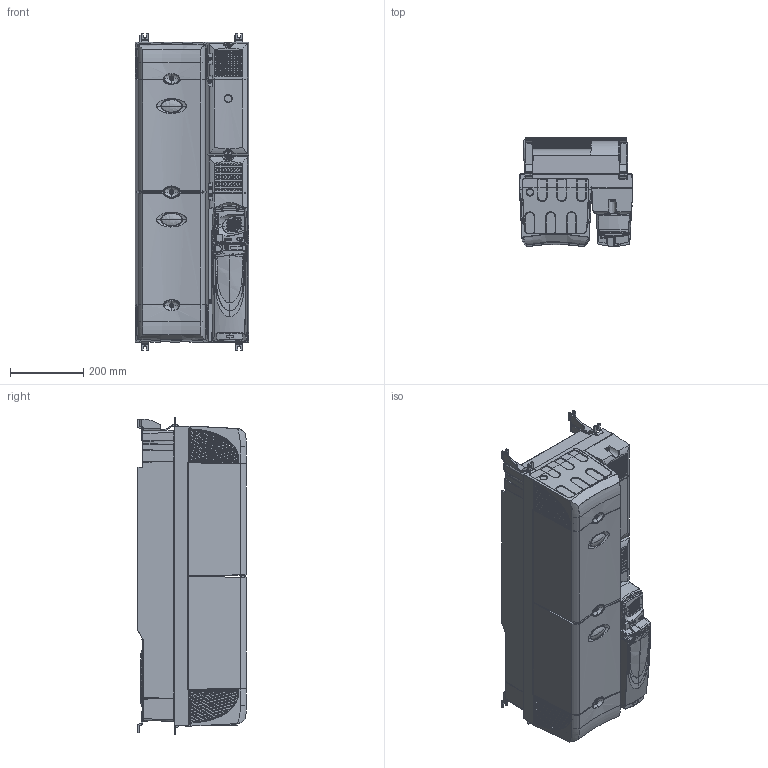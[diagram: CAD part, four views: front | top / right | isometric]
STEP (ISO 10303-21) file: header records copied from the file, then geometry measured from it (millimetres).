
FILE_DESCRIPTION((''),'2;1');
FILE_NAME('EXTERNAL_WITH_TERM_CV_SW0001','2007-03-22T',('summne01'),(''),'PRO/ENGINEER BY PARAMETRIC TECHNOLOGY CORPORATION, 2006460','PRO/ENGINEER BY PARAMETRIC TECHNOLOGY CORPORATION, 2006460','');
FILE_SCHEMA(('CONFIG_CONTROL_DESIGN'));
Products named in the file (1): EXTERNAL_WITH_TERM_CV_SW0001
Bounding box: 310.16 x 298 x 868.63 mm (x, y, z)
Surface area: 2165649.4 mm2 (no closed solid volume)
Topology: 0 solids, 279 shells, 2257 faces, 13361 edges, 11012 vertices
Faces by surface type: plane 1193, cylinder 432, bspline 317, cone 155, torus 121, sphere 16, extrusion 15, revolution 8
Entity records: 180747 total; most frequent: CARTESIAN_POINT 88911, ORIENTED_EDGE 16939, DIRECTION 15553, EDGE_CURVE 13355, VERTEX_POINT 11012, VECTOR 6701, LINE 6686, AXIS2_PLACEMENT_3D 4422
